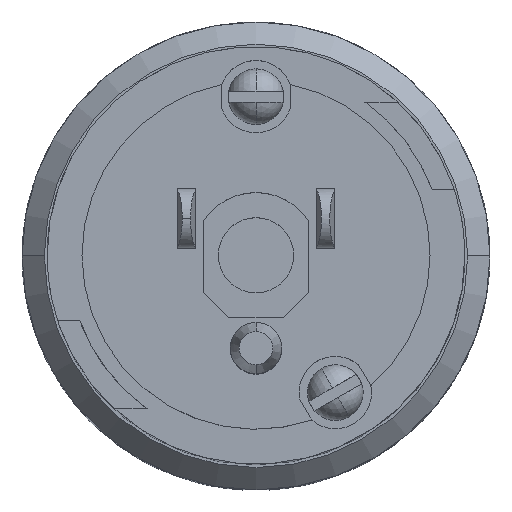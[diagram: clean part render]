
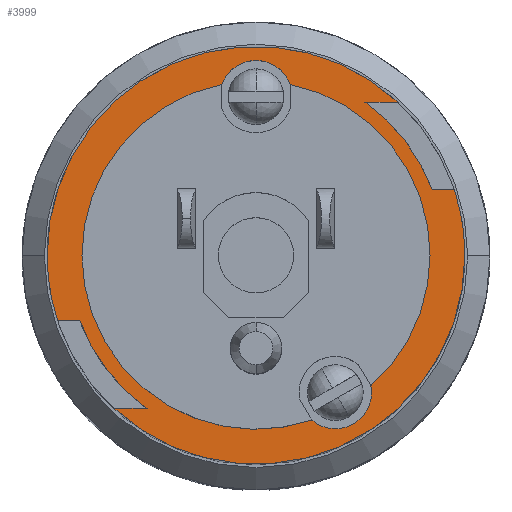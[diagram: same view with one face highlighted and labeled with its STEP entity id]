
A CAD part, top view. The second image highlights one B-rep face of the part: STEP entity #3999.
In plain terms, the highlighted planar face has unit normal (0, 0, 1) as drawn and (0, -1, 0) by its records, which use the part's own axes.
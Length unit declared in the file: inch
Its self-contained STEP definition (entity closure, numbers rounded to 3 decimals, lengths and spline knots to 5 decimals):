
#28 = LINE ( 'NONE', #4606, #5179 ) ;
#149 = AXIS2_PLACEMENT_3D ( 'NONE', #2302, #5809, #2798 ) ;
#166 = CARTESIAN_POINT ( 'NONE',  ( 0.1225, 0.08, 0.61288 ) ) ;
#176 = EDGE_CURVE ( 'NONE', #6042, #4242, #1683, .T. ) ;
#199 = CARTESIAN_POINT ( 'NONE',  ( 0., 0.08, 0. ) ) ;
#205 = EDGE_CURVE ( 'NONE', #3343, #2553, #2839, .T. ) ;
#253 = EDGE_LOOP ( 'NONE', ( #5424, #5425, #5489, #5497, #5534, #5577 ) ) ;
#297 = DIRECTION ( 'NONE',  ( 0., -1., 0. ) ) ;
#549 = FACE_OUTER_BOUND ( 'NONE', #774, .T. ) ;
#600 = EDGE_CURVE ( 'NONE', #1204, #6113, #2452, .T. ) ;
#657 = LINE ( 'NONE', #4360, #4615 ) ;
#698 = CARTESIAN_POINT ( 'NONE',  ( -0.63277, 0.08, -0.235 ) ) ;
#756 = AXIS2_PLACEMENT_3D ( 'NONE', #3286, #297, #3769 ) ;
#770 = CARTESIAN_POINT ( 'NONE',  ( 0., 0.08, 0. ) ) ;
#774 = EDGE_LOOP ( 'NONE', ( #5600, #5615, #5689, #5704, #5743, #5748, #5783, #5815, #5850, #5886 ) ) ;
#787 = EDGE_CURVE ( 'NONE', #4158, #5548, #28, .T. ) ;
#790 = CIRCLE ( 'NONE', #149, 0.675 ) ;
#939 = EDGE_CURVE ( 'NONE', #6412, #1300, #4547, .T. ) ;
#1004 = AXIS2_PLACEMENT_3D ( 'NONE', #1919, #5410, #2415 ) ;
#1025 = VECTOR ( 'NONE', #5885, 39.37008 ) ;
#1029 = CIRCLE ( 'NONE', #1372, 0.13 ) ;
#1189 = CARTESIAN_POINT ( 'NONE',  ( -0.75, 0.08, 0. ) ) ;
#1204 = VERTEX_POINT ( 'NONE', #4471 ) ;
#1265 = DIRECTION ( 'NONE',  ( 1., 0., 0. ) ) ;
#1300 = VERTEX_POINT ( 'NONE', #5066 ) ;
#1353 = CARTESIAN_POINT ( 'NONE',  ( -0.71223, 0.08, -0.235 ) ) ;
#1358 = VERTEX_POINT ( 'NONE', #2104 ) ;
#1372 = AXIS2_PLACEMENT_3D ( 'NONE', #1531, #4998, #2021 ) ;
#1398 = DIRECTION ( 'NONE',  ( 1., 0., 0. ) ) ;
#1441 = DIRECTION ( 'NONE',  ( 0., -1., 0. ) ) ;
#1497 = CIRCLE ( 'NONE', #4148, 0.75 ) ;
#1531 = CARTESIAN_POINT ( 'NONE',  ( 0.28468, 0.08, -0.49308 ) ) ;
#1576 = CARTESIAN_POINT ( 'NONE',  ( 0., 0.08, 0. ) ) ;
#1638 = DIRECTION ( 'NONE',  ( 1., 0., 0. ) ) ;
#1683 = CIRCLE ( 'NONE', #5804, 0.75 ) ;
#1709 = VECTOR ( 'NONE', #2458, 39.37008 ) ;
#1726 = EDGE_CURVE ( 'NONE', #4001, #3850, #657, .T. ) ;
#1777 = EDGE_CURVE ( 'NONE', #1358, #1204, #5985, .T. ) ;
#1919 = CARTESIAN_POINT ( 'NONE',  ( 0., 0.08, 0. ) ) ;
#2021 = DIRECTION ( 'NONE',  ( 1., 0., 0. ) ) ;
#2065 = DIRECTION ( 'NONE',  ( 1., 0., 0. ) ) ;
#2104 = CARTESIAN_POINT ( 'NONE',  ( -0.1225, 0.08, 0.61288 ) ) ;
#2150 = PLANE ( 'NONE',  #6407 ) ;
#2302 = CARTESIAN_POINT ( 'NONE',  ( 0., 0.08, 0. ) ) ;
#2351 = DIRECTION ( 'NONE',  ( 0., -1., 0. ) ) ;
#2415 = DIRECTION ( 'NONE',  ( 1., 0., 0. ) ) ;
#2452 = CIRCLE ( 'NONE', #3537, 0.13 ) ;
#2458 = DIRECTION ( 'NONE',  ( -1., 0., 0. ) ) ;
#2462 = DIRECTION ( 'NONE',  ( 0., -1., 0. ) ) ;
#2486 = LINE ( 'NONE', #4345, #1025 ) ;
#2553 = VERTEX_POINT ( 'NONE', #2618 ) ;
#2618 = CARTESIAN_POINT ( 'NONE',  ( 0.625, 0.08, 0. ) ) ;
#2650 = DIRECTION ( 'NONE',  ( 1., 0., 0. ) ) ;
#2793 = EDGE_CURVE ( 'NONE', #4016, #1358, #5318, .T. ) ;
#2798 = DIRECTION ( 'NONE',  ( 1., 0., 0. ) ) ;
#2839 = CIRCLE ( 'NONE', #6492, 0.625 ) ;
#2903 = CARTESIAN_POINT ( 'NONE',  ( 0., 0.08, 0. ) ) ;
#2955 = CARTESIAN_POINT ( 'NONE',  ( 0.99004, 0.08, -0.55 ) ) ;
#3028 = LINE ( 'NONE', #2955, #1709 ) ;
#3255 = CARTESIAN_POINT ( 'NONE',  ( 0.5099, 0.08, 0.55 ) ) ;
#3286 = CARTESIAN_POINT ( 'NONE',  ( 0., 0.08, 0. ) ) ;
#3343 = VERTEX_POINT ( 'NONE', #4040 ) ;
#3417 = DIRECTION ( 'NONE',  ( 1., 0., 0. ) ) ;
#3524 = CIRCLE ( 'NONE', #6045, 0.625 ) ;
#3537 = AXIS2_PLACEMENT_3D ( 'NONE', #5459, #2462, #5984 ) ;
#3622 = EDGE_CURVE ( 'NONE', #4031, #4102, #790, .T. ) ;
#3764 = EDGE_CURVE ( 'NONE', #5548, #6042, #1497, .T. ) ;
#3769 = DIRECTION ( 'NONE',  ( 0., 0., -1. ) ) ;
#3850 = VERTEX_POINT ( 'NONE', #4474 ) ;
#3874 = EDGE_CURVE ( 'NONE', #6113, #3343, #1029, .T. ) ;
#3991 = CARTESIAN_POINT ( 'NONE',  ( -0.5099, 0.08, -0.55 ) ) ;
#3999 = ADVANCED_FACE ( 'NONE', ( #5868, #549 ), #2150, .T. ) ;
#4001 = VERTEX_POINT ( 'NONE', #4625 ) ;
#4016 = VERTEX_POINT ( 'NONE', #166 ) ;
#4031 = VERTEX_POINT ( 'NONE', #698 ) ;
#4040 = CARTESIAN_POINT ( 'NONE',  ( 0.41253, 0.08, -0.46952 ) ) ;
#4102 = VERTEX_POINT ( 'NONE', #5742 ) ;
#4148 = AXIS2_PLACEMENT_3D ( 'NONE', #2903, #6438, #3417 ) ;
#4158 = VERTEX_POINT ( 'NONE', #5760 ) ;
#4183 = DIRECTION ( 'NONE',  ( 1., 0., 0. ) ) ;
#4193 = CARTESIAN_POINT ( 'NONE',  ( 0.41468, 0.08, -0.49308 ) ) ;
#4224 = DIRECTION ( 'NONE',  ( 0., -1., 0. ) ) ;
#4228 = DIRECTION ( 'NONE',  ( 0., -1., 0. ) ) ;
#4242 = VERTEX_POINT ( 'NONE', #1353 ) ;
#4345 = CARTESIAN_POINT ( 'NONE',  ( 0.99004, 0.08, -0.235 ) ) ;
#4360 = CARTESIAN_POINT ( 'NONE',  ( -0.99004, 0.08, 0.235 ) ) ;
#4410 = CARTESIAN_POINT ( 'NONE',  ( 0., 0.08, 0. ) ) ;
#4471 = CARTESIAN_POINT ( 'NONE',  ( 0.20035, 0.08, -0.59202 ) ) ;
#4474 = CARTESIAN_POINT ( 'NONE',  ( 0.71223, 0.08, 0.235 ) ) ;
#4506 = EDGE_CURVE ( 'NONE', #1300, #3850, #5646, .T. ) ;
#4511 = DIRECTION ( 'NONE',  ( 1., 0., 0. ) ) ;
#4547 = CIRCLE ( 'NONE', #6455, 0.75 ) ;
#4606 = CARTESIAN_POINT ( 'NONE',  ( -0.99004, 0.08, 0.55 ) ) ;
#4615 = VECTOR ( 'NONE', #1398, 39.37008 ) ;
#4623 = AXIS2_PLACEMENT_3D ( 'NONE', #5345, #2351, #5858 ) ;
#4625 = CARTESIAN_POINT ( 'NONE',  ( 0.63277, 0.08, 0.235 ) ) ;
#4674 = EDGE_CURVE ( 'NONE', #2553, #4016, #3524, .T. ) ;
#4900 = DIRECTION ( 'NONE',  ( 1., 0., 0. ) ) ;
#4932 = EDGE_CURVE ( 'NONE', #4001, #4158, #6136, .T. ) ;
#4989 = DIRECTION ( 'NONE',  ( 0., -1., 0. ) ) ;
#4998 = DIRECTION ( 'NONE',  ( 0., -1., 0. ) ) ;
#5010 = CARTESIAN_POINT ( 'NONE',  ( 0., 0.08, 0. ) ) ;
#5047 = DIRECTION ( 'NONE',  ( 0., -1., 0. ) ) ;
#5066 = CARTESIAN_POINT ( 'NONE',  ( 0.75, 0.08, 0. ) ) ;
#5135 = CARTESIAN_POINT ( 'NONE',  ( 0.625, 0.08, 0. ) ) ;
#5179 = VECTOR ( 'NONE', #1638, 39.37008 ) ;
#5253 = AXIS2_PLACEMENT_3D ( 'NONE', #4410, #1441, #4900 ) ;
#5318 = CIRCLE ( 'NONE', #4623, 0.13 ) ;
#5345 = CARTESIAN_POINT ( 'NONE',  ( 0., 0.08, 0.56936 ) ) ;
#5410 = DIRECTION ( 'NONE',  ( 0., -1., 0. ) ) ;
#5424 = ORIENTED_EDGE ( 'NONE', *, *, #600, .F. ) ;
#5425 = ORIENTED_EDGE ( 'NONE', *, *, #1777, .F. ) ;
#5459 = CARTESIAN_POINT ( 'NONE',  ( 0.28468, 0.08, -0.49308 ) ) ;
#5489 = ORIENTED_EDGE ( 'NONE', *, *, #2793, .F. ) ;
#5497 = ORIENTED_EDGE ( 'NONE', *, *, #4674, .F. ) ;
#5534 = ORIENTED_EDGE ( 'NONE', *, *, #205, .F. ) ;
#5548 = VERTEX_POINT ( 'NONE', #3255 ) ;
#5577 = ORIENTED_EDGE ( 'NONE', *, *, #3874, .F. ) ;
#5600 = ORIENTED_EDGE ( 'NONE', *, *, #6262, .F. ) ;
#5615 = ORIENTED_EDGE ( 'NONE', *, *, #3622, .T. ) ;
#5646 = CIRCLE ( 'NONE', #1004, 0.75 ) ;
#5655 = DIRECTION ( 'NONE',  ( 0., -1., 0. ) ) ;
#5689 = ORIENTED_EDGE ( 'NONE', *, *, #6352, .T. ) ;
#5704 = ORIENTED_EDGE ( 'NONE', *, *, #939, .T. ) ;
#5742 = CARTESIAN_POINT ( 'NONE',  ( -0.39131, 0.08, -0.55 ) ) ;
#5743 = ORIENTED_EDGE ( 'NONE', *, *, #4506, .T. ) ;
#5748 = ORIENTED_EDGE ( 'NONE', *, *, #1726, .F. ) ;
#5760 = CARTESIAN_POINT ( 'NONE',  ( 0.39131, 0.08, 0.55 ) ) ;
#5783 = ORIENTED_EDGE ( 'NONE', *, *, #4932, .T. ) ;
#5804 = AXIS2_PLACEMENT_3D ( 'NONE', #5010, #4989, #4511 ) ;
#5809 = DIRECTION ( 'NONE',  ( 0., -1., 0. ) ) ;
#5815 = ORIENTED_EDGE ( 'NONE', *, *, #787, .T. ) ;
#5850 = ORIENTED_EDGE ( 'NONE', *, *, #3764, .T. ) ;
#5858 = DIRECTION ( 'NONE',  ( 1., 0., 0. ) ) ;
#5868 = FACE_BOUND ( 'NONE', #253, .T. ) ;
#5885 = DIRECTION ( 'NONE',  ( -1., 0., 0. ) ) ;
#5886 = ORIENTED_EDGE ( 'NONE', *, *, #176, .T. ) ;
#5984 = DIRECTION ( 'NONE',  ( 1., 0., 0. ) ) ;
#5985 = CIRCLE ( 'NONE', #5253, 0.625 ) ;
#6042 = VERTEX_POINT ( 'NONE', #1189 ) ;
#6045 = AXIS2_PLACEMENT_3D ( 'NONE', #1576, #5047, #2065 ) ;
#6113 = VERTEX_POINT ( 'NONE', #4193 ) ;
#6136 = CIRCLE ( 'NONE', #756, 0.675 ) ;
#6262 = EDGE_CURVE ( 'NONE', #4031, #4242, #2486, .T. ) ;
#6352 = EDGE_CURVE ( 'NONE', #4102, #6412, #3028, .T. ) ;
#6407 = AXIS2_PLACEMENT_3D ( 'NONE', #5135, #5655, #2650 ) ;
#6412 = VERTEX_POINT ( 'NONE', #3991 ) ;
#6438 = DIRECTION ( 'NONE',  ( 0., -1., 0. ) ) ;
#6455 = AXIS2_PLACEMENT_3D ( 'NONE', #770, #4228, #1265 ) ;
#6492 = AXIS2_PLACEMENT_3D ( 'NONE', #199, #4224, #4183 ) ;
